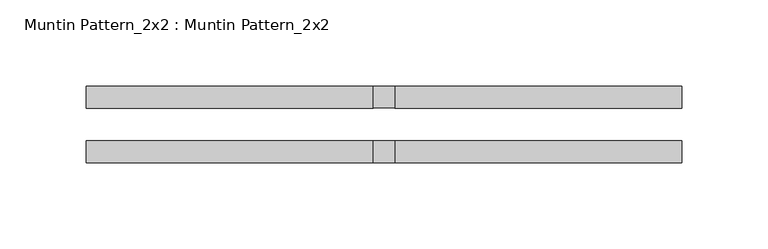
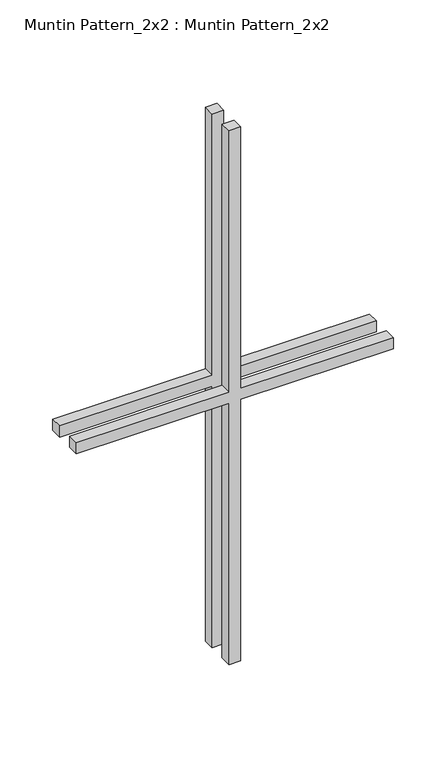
"""IFC4 building model written with IfcOpenShell, lengths in millimetres: proxy geometry, Muntin Pattern_2x2 : Muntin Pattern_2x2."""

from ifc_helpers import new_model, si_unit, frame, origin, place, context, project, spatial, polyline, outline, extrude, source, transform, mapped, element, save


def muntin_pattern_2x2_muntin_pattern_2x2_70805f2e(model_context):
    return source(origin(), model_context, "Body", "SweptSolid", [
        extrude(outline(polyline([(314.325, -6.35), (314.325, -173.0375), (301.625, -173.0375), (301.625, -6.35), (0.0, -6.35), (0.0, 6.35), (301.625, 6.35), (301.625, 173.0375), (314.325, 173.0375), (314.325, 6.35), (615.95, 6.35), (615.95, -6.35), (314.325, -6.35)])), frame((0.0, 9.525, 0.0), z_axis=(0.0, 1.0, 0.0), x_axis=(0.0, 0.0, 1.0)), (0.0, 0.0, 1.0), 12.7),
        extrude(outline(polyline([(314.325, -6.35), (314.325, -173.0375), (301.625, -173.0375), (301.625, -6.35), (0.0, -6.35), (0.0, 6.35), (301.625, 6.35), (301.625, 173.0375), (314.325, 173.0375), (314.325, 6.35), (615.95, 6.35), (615.95, -6.35), (314.325, -6.35)])), frame((0.0, -22.225, 0.0), z_axis=(0.0, 1.0, 0.0), x_axis=(0.0, 0.0, 1.0)), (0.0, 0.0, 1.0), 12.7),
    ])


if __name__ == "__main__":
    model = new_model("IFC4")
    model_context = context("Model", 3, world=origin())
    ifc_project = project(units=[si_unit("LENGTHUNIT", "METRE", prefix="MILLI")], contexts=[model_context])
    site = spatial("IfcSite", under=ifc_project)
    building = spatial("IfcBuilding", under=site)
    placement = place(None, origin())
    muntin_pattern_2x2_muntin_pattern_2x2_shape = muntin_pattern_2x2_muntin_pattern_2x2_70805f2e(model_context)
    element("IfcBuildingElementProxy", 1, Name="Muntin Pattern_2x2 : Muntin Pattern_2x2", ObjectType="Muntin Pattern_2x2 : Muntin Pattern_2x2", at=placement, inside=building, context=model_context, shape_type="MappedRepresentation", body=[
        mapped(muntin_pattern_2x2_muntin_pattern_2x2_shape, transform((0.0, 0.0, 0.0), x_axis=(1.0, 0.0, 0.0), y_axis=(0.0, 1.0, 0.0), z_axis=(0.0, 0.0, 1.0))),
    ])
    save(model, "model.ifc")
